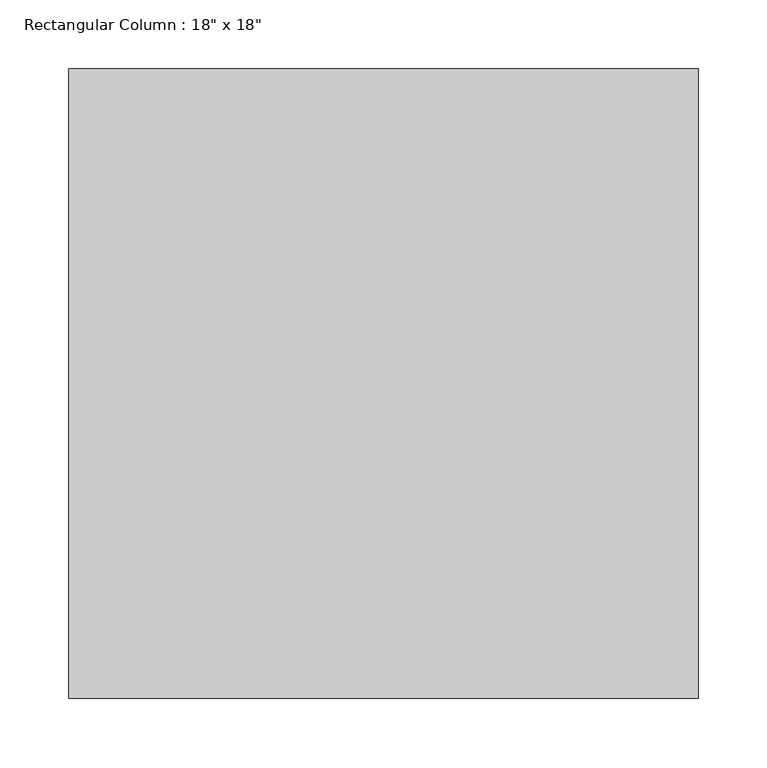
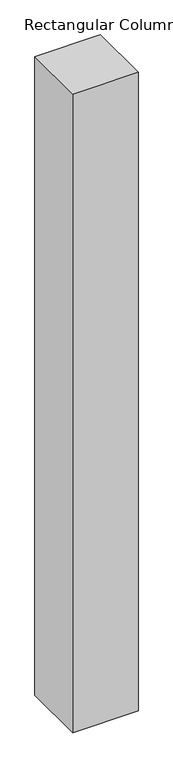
"""IFC4 building model written with IfcOpenShell, lengths in millimetres: column geometry."""

from ifc_helpers import new_model, si_unit, frame, origin, place, context, project, spatial, polyline, outline, extrude, source, transform, mapped, element, save


def column_773d994b(model_context):
    return source(origin(), model_context, "Body", "SweptSolid", [
        extrude(outline(polyline([(228.6, 228.6), (228.6, -228.6), (-228.6, -228.6), (-228.6, 228.6), (228.6, 228.6)])), frame((0.0, 0.0, 14935.2), z_axis=(0.0, 0.0, 1.0), x_axis=(1.0, 0.0, 0.0)), (0.0, 0.0, 1.0), 4724.4),
    ])


if __name__ == "__main__":
    model = new_model("IFC4")
    model_context = context("Model", 3, world=origin())
    ifc_project = project(units=[si_unit("LENGTHUNIT", "METRE", prefix="MILLI")], contexts=[model_context])
    site = spatial("IfcSite", under=ifc_project)
    building = spatial("IfcBuilding", under=site)
    placement = place(None, origin())
    column_shape = column_773d994b(model_context)
    element("IfcColumn", 1, ObjectType="Rectangular Column : 18\" x 18\"", at=placement, inside=building, context=model_context, shape_type="MappedRepresentation", body=[
        mapped(column_shape, transform((0.0, 0.0, 0.0), x_axis=(1.0, 0.0, 0.0), y_axis=(0.0, 1.0, 0.0), z_axis=(0.0, 0.0, 1.0))),
    ])
    save(model, "model.ifc")
